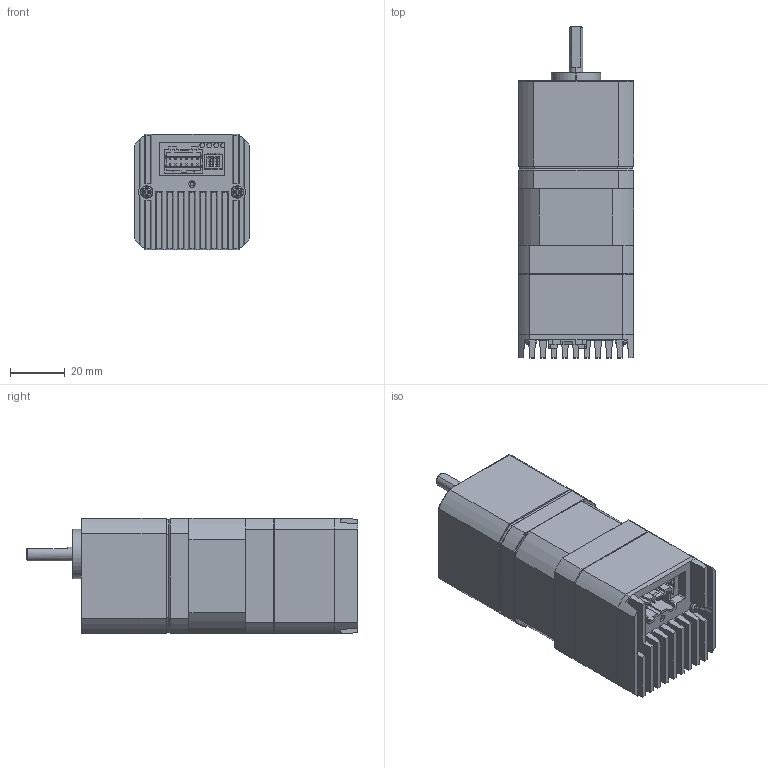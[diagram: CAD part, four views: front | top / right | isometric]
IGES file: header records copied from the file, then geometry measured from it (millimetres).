
Start section: SolidWorks IGES file using analytic representation for surfaces
Global section: file name: \\192.168.17.31\sw_kari\7677\ステップ\SSA ギヤ付\□42\SSA-P□-42D2SD.IGS; native system: SolidWorks 2009; preprocessor: SolidWorks 2009; author: user0013; date: 120301.094758; units: millimetre
Bounding box: 42 x 120.8 x 42 mm (x, y, z)
Surface area: 47162 mm2 (no closed solid volume)
Topology: 0 solids, 0 shells, 948 faces, 8276 edges, 8276 vertices
Faces by surface type: bspline 638, revolution 310
